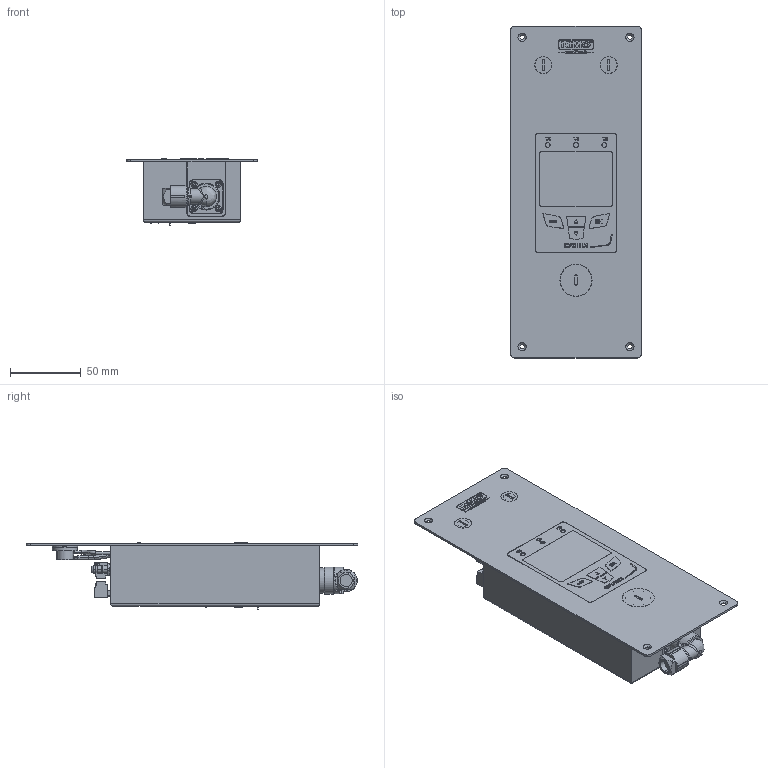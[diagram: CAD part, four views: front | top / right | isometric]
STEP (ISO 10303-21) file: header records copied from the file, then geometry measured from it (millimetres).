
FILE_DESCRIPTION((''),'2;1');
FILE_NAME('CPE310-1','2016-06-24T',('REFT'),(''),'PRO/ENGINEER BY PARAMETRIC TECHNOLOGY CORPORATION, 2012420','PRO/ENGINEER BY PARAMETRIC TECHNOLOGY CORPORATION, 2012420','');
FILE_SCHEMA(('CONFIG_CONTROL_DESIGN'));
Products named in the file (1): CPE310-1
Bounding box: 92 x 234 x 46.57 mm (x, y, z)
Volume: 481682 mm3; surface area: 80759.8 mm2
Topology: 1 solids, 1 shells, 2936 faces, 7944 edges, 5136 vertices
Faces by surface type: plane 1472, cylinder 698, extrusion 481, cone 116, sphere 71, torus 50, bspline 48
Entity records: 105810 total; most frequent: CARTESIAN_POINT 34345, ORIENTED_EDGE 15738, DIRECTION 13048, EDGE_CURVE 7869, VERTEX_POINT 5136, VECTOR 5032, LINE 4551, AXIS2_PLACEMENT_3D 4008
